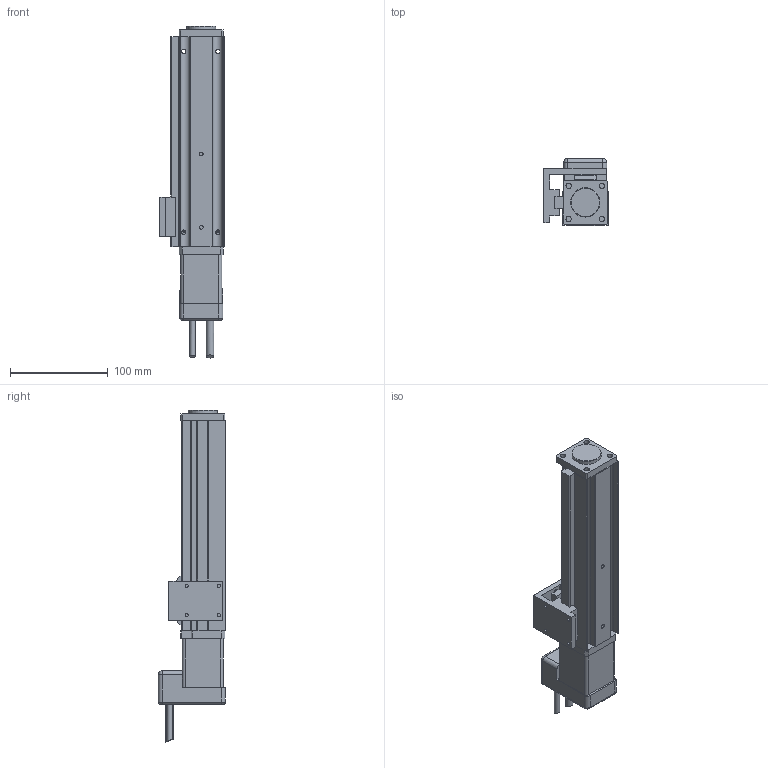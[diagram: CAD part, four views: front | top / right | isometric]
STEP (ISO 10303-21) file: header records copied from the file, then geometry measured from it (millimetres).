
FILE_DESCRIPTION(/* description */ ('Alibre Inc.'),/* implementation_level */ '2;1');
FILE_NAME(/* name */ 'export0',/* time_stamp */ '2011-08-02T11:25:07-04:00',/* author */ (''),/* organization */ (''),/* preprocessor_version */ 'ST-DEVELOPER v10',/* originating_system */ 'Alibre',/* authorisation */ '');
FILE_SCHEMA (('CONFIG_CONTROL_DESIGN'));
Length unit declared in the file: centimetre
Products named in the file (3): ID_1; ID_2
Bounding box: 66 x 68.8 x 339.76 mm (x, y, z)
Volume: 609130.3 mm3; surface area: 94350.4 mm2
Topology: 2 solids, 2 shells, 220 faces, 585 edges, 373 vertices
Faces by surface type: plane 130, cylinder 79, cone 5, torus 4, sphere 2
Full cylindrical faces by diameter (mm): 2.459 x3, 2.5 x1, 3 x2, 3.242 x12, 4 x2, 4.5 x4, 5 x1, 5.5 x5, 7.5 x1, 8 x4, 12 x1, 22 x1, 30 x1
Entity records: 6500 total; most frequent: CARTESIAN_POINT 1173, ORIENTED_EDGE 1038, DIRECTION 927, EDGE_CURVE 519, AXIS2_PLACEMENT_3D 365, VERTEX_POINT 356, FACE_BOUND 313, EDGE_LOOP 309
